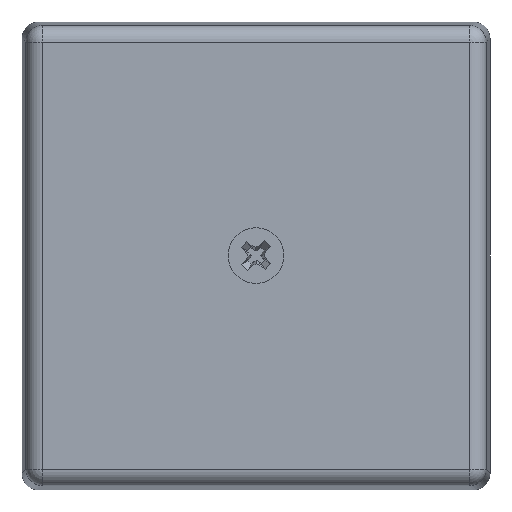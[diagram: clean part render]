
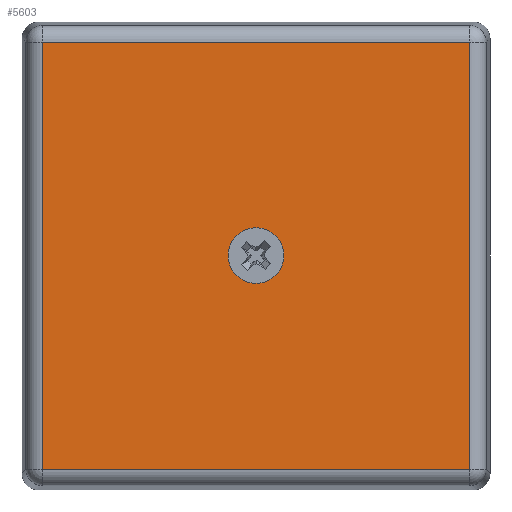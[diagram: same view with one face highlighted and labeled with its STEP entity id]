
A CAD part, top view. The second image highlights one B-rep face of the part: STEP entity #5603.
In plain terms, the highlighted planar face has unit normal (0, 0, 1).
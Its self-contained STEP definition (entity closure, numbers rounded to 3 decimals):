
#5603=ADVANCED_FACE('',(#10451,#10453),#10455,.T.);
#10451=FACE_BOUND('',#10452,.T.);
#10452=EDGE_LOOP('',(#13927,#13928,#13929,#13930));
#10453=FACE_BOUND('',#10454,.T.);
#10454=EDGE_LOOP('',(#13931));
#10455=PLANE('',#10456);
#10456=AXIS2_PLACEMENT_3D('',#10457,#10458,#10459);
#10457=CARTESIAN_POINT('',(1.54,0.058,36.457));
#10458=DIRECTION('',(0.,0.,1.));
#10459=DIRECTION('',(-1.,0.,0.));
#13927=ORIENTED_EDGE('',*,*,#15707,.F.);
#13928=ORIENTED_EDGE('',*,*,#15704,.F.);
#13929=ORIENTED_EDGE('',*,*,#15702,.F.);
#13930=ORIENTED_EDGE('',*,*,#15711,.F.);
#13931=ORIENTED_EDGE('',*,*,#15714,.F.);
#15702=EDGE_CURVE('',#18496,#18494,#18498,.F.);
#15704=EDGE_CURVE('',#18494,#18500,#18501,.F.);
#15707=EDGE_CURVE('',#18500,#18504,#18505,.F.);
#15711=EDGE_CURVE('',#18504,#18496,#18509,.F.);
#15714=EDGE_CURVE('',#18514,#18514,#18515,.T.);
#18494=VERTEX_POINT('',#28347);
#18496=VERTEX_POINT('',#28352);
#18498=LINE('',#28357,#28358);
#18500=VERTEX_POINT('',#28364);
#18501=LINE('',#28365,#28366);
#18504=VERTEX_POINT('',#28376);
#18505=LINE('',#28377,#28378);
#18509=LINE('',#28392,#28393);
#18514=VERTEX_POINT('',#28405);
#18515=CIRCLE('',#28406,4.);
#28347=CARTESIAN_POINT('',(33.766,-32.169,36.457));
#28352=CARTESIAN_POINT('',(33.766,32.284,36.457));
#28357=CARTESIAN_POINT('',(33.766,-32.169,36.457));
#28358=VECTOR('',#28359,1.);
#28359=DIRECTION('',(0.,1.,0.));
#28364=CARTESIAN_POINT('',(-30.686,-32.169,36.457));
#28365=CARTESIAN_POINT('',(-30.686,-32.169,36.457));
#28366=VECTOR('',#28367,1.);
#28367=DIRECTION('',(1.,0.,0.));
#28376=CARTESIAN_POINT('',(-30.686,32.284,36.457));
#28377=CARTESIAN_POINT('',(-30.686,32.284,36.457));
#28378=VECTOR('',#28379,1.);
#28379=DIRECTION('',(0.,-1.,0.));
#28392=CARTESIAN_POINT('',(33.766,32.284,36.457));
#28393=VECTOR('',#28394,1.);
#28394=DIRECTION('',(-1.,0.,0.));
#28405=CARTESIAN_POINT('',(5.54,0.058,36.457));
#28406=AXIS2_PLACEMENT_3D('',#28407,#28408,#28409);
#28407=CARTESIAN_POINT('',(1.54,0.058,36.457));
#28408=DIRECTION('',(0.,0.,1.));
#28409=DIRECTION('',(1.,0.,-0.));
